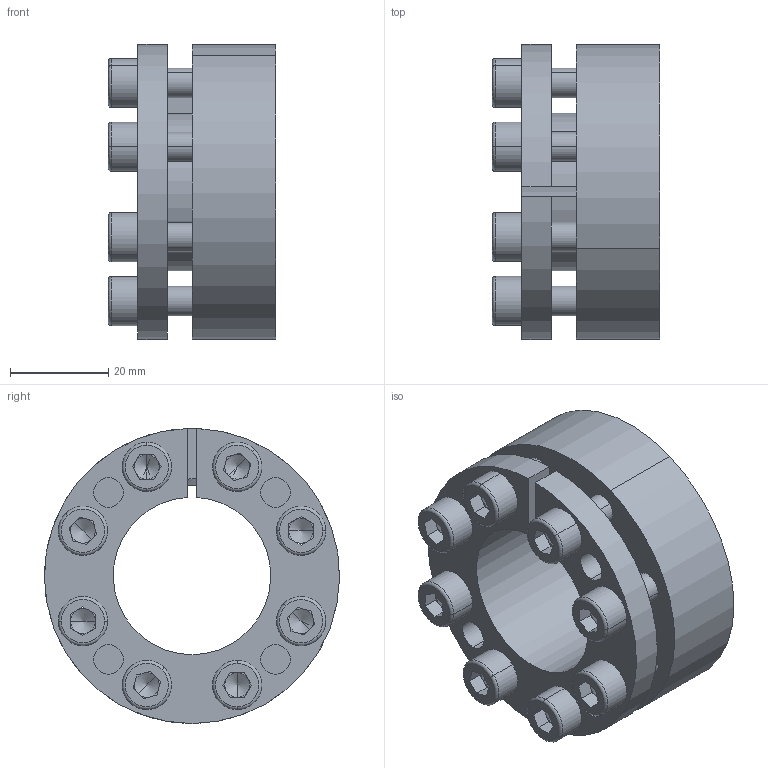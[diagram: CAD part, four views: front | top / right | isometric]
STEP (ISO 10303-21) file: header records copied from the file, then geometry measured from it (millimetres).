
FILE_DESCRIPTION (( 'STEP AP203' ), '1' );
FILE_NAME ('D2-32-60.STEP', '2017-10-12T04:19:23', ( 'MYCOM' ), ( '' ), 'SwSTEP 2.0', 'SolidWorks 2015', '' );
FILE_SCHEMA (( 'CONFIG_CONTROL_DESIGN' ));
Length unit declared in the file: millimetre
Products named in the file (1): D2-32-60
Bounding box: 34.01 x 59.99 x 59.98 mm (x, y, z)
Surface area: 24748.3 mm2 (no closed solid volume)
Topology: 0 solids, 18 shells, 226 faces, 571 edges, 346 vertices
Faces by surface type: plane 111, cylinder 80, cone 19, torus 16
Entity records: 6781 total; most frequent: DIRECTION 1250, CARTESIAN_POINT 1149, ORIENTED_EDGE 1050, EDGE_CURVE 555, AXIS2_PLACEMENT_3D 472, VERTEX_POINT 346, LINE 306, VECTOR 306
